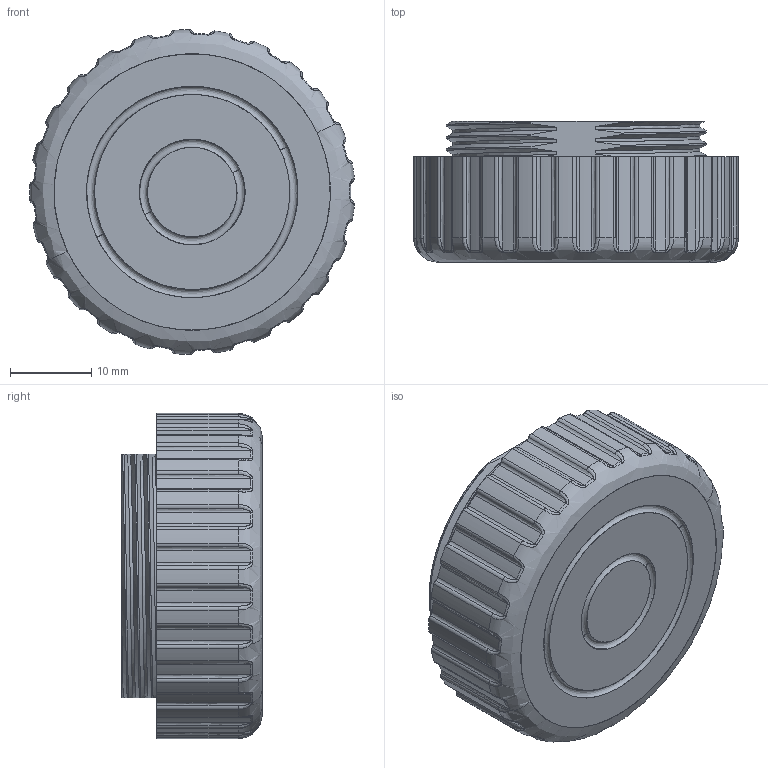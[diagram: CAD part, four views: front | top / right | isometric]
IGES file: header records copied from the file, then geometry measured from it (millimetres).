
Start section: SolidWorks IGES file using analytic representation for surfaces
Bounding box: 39.94 x 17.34 x 39.99 mm (x, y, z)
Surface area: 9570.5 mm2 (no closed solid volume)
Topology: 0 solids, 0 shells, 485 faces, 4745 edges, 4730 vertices
Faces by surface type: revolution 276, bspline 209
